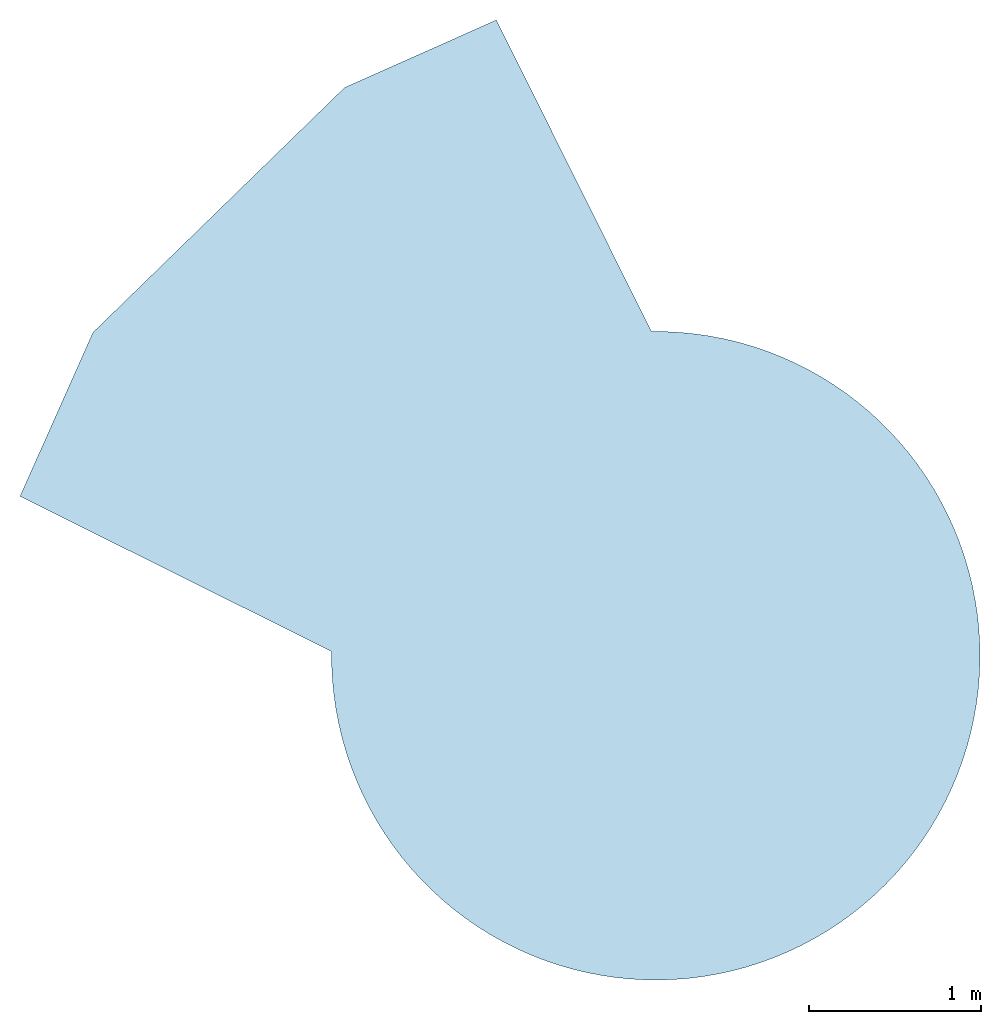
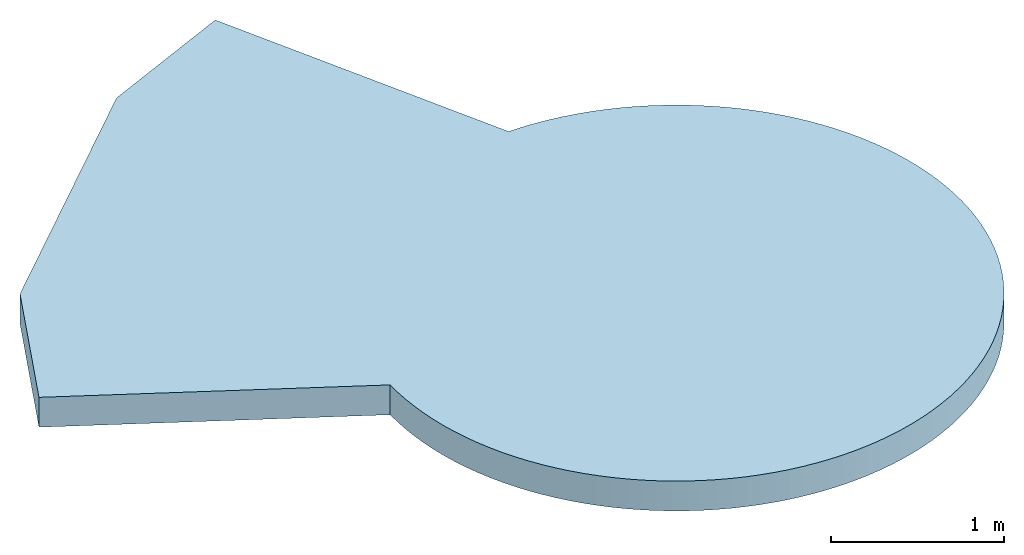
# One storey: 1 slab.
"""IFC2X3 building model written with IfcOpenShell, lengths in centimetres."""

import ifcopenshell
import ifcopenshell.guid

model = None  # the IFC model being written
_history = None  # IfcOwnerHistory: only IFC2X3 demands one
_inside = {}  # id of a spatial element -> (the spatial element, [elements in it])
_under = {}  # id of a project, library or spatial element -> (it, [spatial elements below it])
_declared = {}  # id of a project -> (the project, [libraries it declares])
_typed = {}  # id of a type object -> (the type object, [elements of that type])
_made_of = {}  # id of a material, layer set ... -> (it, [elements and type objects made of it])


def new_model(schema):
    """Start an empty IFC model of exactly this schema.

    Asked for "IFC4X3", IfcOpenShell would pick the latest addendum, in which some entities
    have other attributes; the version numbers below select the first issue.
    IFC2X3 requires an IfcOwnerHistory on every rooted entity: one is made here for all.
    """
    global model, _history
    if schema == "IFC4X3":
        model = ifcopenshell.file(schema_version=(4, 3, 0, 0))
    else:
        model = ifcopenshell.file(schema=schema)
    _inside.clear()
    _under.clear()
    _declared.clear()
    _typed.clear()
    _made_of.clear()
    _history = None
    if model.schema == "IFC2X3":
        org = make("IfcOrganization", Name="unknown")
        user = make(
            "IfcPersonAndOrganization",
            ThePerson=make("IfcPerson", FamilyName="unknown"),
            TheOrganization=org,
        )
        app = make(
            "IfcApplication",
            ApplicationDeveloper=org,
            Version="unknown",
            ApplicationFullName="unknown",
            ApplicationIdentifier="unknown",
        )
        _history = make(
            "IfcOwnerHistory",
            OwningUser=user,
            OwningApplication=app,
            ChangeAction="ADDED",
            CreationDate=0,
        )
    return model


def make(cls, **values):
    """One entity of the class cls with the attributes given. An attribute that is None is left unset."""
    return model.create_entity(
        cls, **{name: value for name, value in values.items() if value is not None}
    )


def entity(cls, *values):
    """Any entity or typed value of the class cls, its attributes in the order of the schema. None: left unset."""
    e = model.create_entity(cls)
    for i, value in enumerate(values):
        if value is not None:
            e[i] = value
    return e


def rooted(cls, **values):
    """An entity with a GlobalId (a new one), such as an element, a storey or a relation."""
    return make(cls, GlobalId=ifcopenshell.guid.new(), OwnerHistory=_history, **values)


def si_unit(unit_type, name, prefix=None):
    """IfcSIUnit, for example si_unit("LENGTHUNIT", "METRE", prefix="MILLI")."""
    return make("IfcSIUnit", UnitType=unit_type, Prefix=prefix, Name=name)


def converted_unit(unit_type, name, factor, base, dimensions=None, offset=None):
    """IfcConversionBasedUnit, such as the inch: factor (a typed value) times the base unit."""
    return make(
        "IfcConversionBasedUnit"
        if offset is None
        else "IfcConversionBasedUnitWithOffset",
        ConversionOffset=offset,
        Dimensions=None
        if dimensions is None
        else entity("IfcDimensionalExponents", *dimensions),
        UnitType=unit_type,
        Name=name,
        ConversionFactor=make(
            "IfcMeasureWithUnit", ValueComponent=factor, UnitComponent=base
        ),
    )


def derived_unit(unit_type, elements):
    """IfcDerivedUnit: a product of units, each with its exponent."""
    return make(
        "IfcDerivedUnit",
        Elements=[
            make("IfcDerivedUnitElement", Unit=unit, Exponent=power)
            for unit, power in elements
        ],
        UnitType=unit_type,
    )


def assignment(units):
    """IfcUnitAssignment: the units of a project."""
    return None if units is None else make("IfcUnitAssignment", Units=units)


def point(xyz):
    """IfcCartesianPoint."""
    return None if xyz is None else make("IfcCartesianPoint", Coordinates=xyz)


def direction(xyz):
    """IfcDirection."""
    return None if xyz is None else make("IfcDirection", DirectionRatios=xyz)


def frame(location, z_axis=None, x_axis=None):
    """IfcAxis2Placement3D, a coordinate frame: its origin and axes. An axis left out is left unset."""
    return make(
        "IfcAxis2Placement3D",
        Location=point(location),
        Axis=direction(z_axis),
        RefDirection=direction(x_axis),
    )


def frame_2d(location, x_axis=None):
    """IfcAxis2Placement2D, a coordinate frame in the plane: its origin and x axis."""
    return make(
        "IfcAxis2Placement2D", Location=point(location), RefDirection=direction(x_axis)
    )


def origin():
    """The frame at (0, 0, 0) with its axes left unset."""
    return frame((0.0, 0.0, 0.0))


def place(relative_to, where):
    """IfcLocalPlacement: puts the frame where relative to a parent placement (None: the world)."""
    return make(
        "IfcLocalPlacement", PlacementRelTo=relative_to, RelativePlacement=where
    )


def context(
    kind, dimensions, precision=None, world=None, true_north=None, identifier=None
):
    """IfcGeometricRepresentationContext, for example the 3D "Model" context."""
    return make(
        "IfcGeometricRepresentationContext",
        ContextIdentifier=identifier,
        ContextType=kind,
        CoordinateSpaceDimension=dimensions,
        Precision=precision,
        WorldCoordinateSystem=world,
        TrueNorth=true_north,
    )


def subcontext(parent, identifier, kind, view, scale=None):
    """IfcGeometricRepresentationSubContext, for example "Body" below "Model"."""
    return make(
        "IfcGeometricRepresentationSubContext",
        ContextIdentifier=identifier,
        ContextType=kind,
        ParentContext=parent,
        TargetScale=scale,
        TargetView=view,
    )


def project(units=None, contexts=None):
    """IfcProject with its units and contexts."""
    return rooted(
        "IfcProject",
        Name="project",
        RepresentationContexts=contexts,
        UnitsInContext=assignment(units),
    )


def spatial(cls, under=None, at=None, **own):
    """A site, building, storey or space (cls), placed at a placement, below another one or the project."""
    s = rooted(cls, ObjectPlacement=at, **own)
    if under is not None:
        _under.setdefault(under.id(), (under, []))[1].append(s)
    return s


def polyline(points):
    """IfcPolyline through the points."""
    return make("IfcPolyline", Points=[point(p) for p in points])


def circle_curve(where, radius):
    """IfcCircle in the frame where."""
    return make("IfcCircle", Position=where, Radius=radius)


def parameter(value):
    """IfcParameterValue: where a trimmed curve begins or ends, as a parameter of its basis curve."""
    return model.create_entity("IfcParameterValue", value)


def trimmed(basis, trim1, trim2, sense, master):
    """IfcTrimmedCurve: the piece of a basis curve between two trims."""
    return make(
        "IfcTrimmedCurve",
        BasisCurve=basis,
        Trim1=trim1,
        Trim2=trim2,
        SenseAgreement=sense,
        MasterRepresentation=master,
    )


def segment(curve, same_sense, transition):
    """IfcCompositeCurveSegment."""
    return make(
        "IfcCompositeCurveSegment",
        Transition=transition,
        SameSense=same_sense,
        ParentCurve=curve,
    )


def composite_curve(segments, self_intersect=None):
    """IfcCompositeCurve: segments joined end to end."""
    return make("IfcCompositeCurve", Segments=segments, SelfIntersect=self_intersect)


def outline(outer, holes=None, kind="AREA"):
    """IfcArbitraryClosedProfileDef: a profile drawn as a closed curve; with holes, ...WithVoids."""
    if holes is None:
        return make("IfcArbitraryClosedProfileDef", ProfileType=kind, OuterCurve=outer)
    return make(
        "IfcArbitraryProfileDefWithVoids",
        ProfileType=kind,
        OuterCurve=outer,
        InnerCurves=holes,
    )


def extrude(swept, where, along, depth):
    """IfcExtrudedAreaSolid: the profile swept, set in the frame where, extruded along a direction by depth."""
    return make(
        "IfcExtrudedAreaSolid",
        SweptArea=swept,
        Position=where,
        ExtrudedDirection=direction(along),
        Depth=depth,
    )


def shape(context_of_items, identifier, shape_type, items):
    """IfcShapeRepresentation: the items that make up one representation, for example the "Body"."""
    return make(
        "IfcShapeRepresentation",
        ContextOfItems=context_of_items,
        RepresentationIdentifier=identifier,
        RepresentationType=shape_type,
        Items=items,
    )


def material(Name=None, Category=None):
    """IfcMaterial."""
    return make("IfcMaterial", Name=Name, Category=Category)


def layer(
    of_material, thickness, ventilated=None, Name=None, Category=None, Priority=None
):
    """IfcMaterialLayer: one layer of a wall or slab, of a material (None: an air gap)."""
    return make(
        "IfcMaterialLayer",
        Material=of_material,
        LayerThickness=thickness,
        IsVentilated=ventilated,
        Name=Name,
        Category=Category,
        Priority=Priority,
    )


def layer_set(layers, Name=None):
    """IfcMaterialLayerSet."""
    return make("IfcMaterialLayerSet", MaterialLayers=layers, LayerSetName=Name)


def layer_usage(for_layer_set, set_direction, sense, offset, extent=None):
    """IfcMaterialLayerSetUsage: how a layer set lies in its element."""
    return make(
        "IfcMaterialLayerSetUsage",
        ForLayerSet=for_layer_set,
        LayerSetDirection=set_direction,
        DirectionSense=sense,
        OffsetFromReferenceLine=offset,
        ReferenceExtent=extent,
    )


def made_of(thing, what):
    """Note that an element or type object is made of a material, layer set ...; save() writes the relation."""
    if what is not None:
        _made_of.setdefault(what.id(), (what, []))[1].append(thing)
    return thing


def element(
    cls,
    number,
    at=None,
    inside=None,
    cuts=None,
    type_object=None,
    material=None,
    context=None,
    identifier="Body",
    shape_type=None,
    held_by="IfcProductDefinitionShape",
    body=None,
    shapes=None,
    **own,
):
    """One element of the class cls, such as IfcWall. Its Tag is "e" and its number.

    at: its placement. inside: the storey or other place that contains it. cuts: it is an
    opening in that element (IfcRelVoidsElement). A single representation is given by context,
    identifier, shape_type and body (its items); several are given by shapes. held_by: the class
    of the entity that holds the representations. save() writes the other relations.
    """
    e = rooted(cls, Tag="e%d" % number, ObjectPlacement=at, **own)
    if body is not None:
        shapes = [shape(context, identifier, shape_type, body)]
    if shapes is not None:
        e.Representation = make(held_by, Representations=shapes)
    if inside is not None:
        _inside.setdefault(inside.id(), (inside, []))[1].append(e)
    if cuts is not None:
        rooted(
            "IfcRelVoidsElement", RelatingBuildingElement=cuts, RelatedOpeningElement=e
        )
    if type_object is not None:
        _typed.setdefault(type_object.id(), (type_object, []))[1].append(e)
    return made_of(e, material)


def aggregate(whole, parts):
    """IfcRelAggregates: a whole, such as a stair, and the parts it consists of."""
    return rooted("IfcRelAggregates", RelatingObject=whole, RelatedObjects=parts)


def save(model, path):
    """Write the relations noted so far, then the file.

    IfcRelAggregates (storeys below a building ...), IfcRelContainedInSpatialStructure (elements
    in a storey), IfcRelDefinesByType, IfcRelAssociatesMaterial and IfcRelDeclares: one each for
    every whole, place, type object, material and project.
    """
    for whole, parts in _under.values():
        aggregate(whole, parts)
    for where, things in _inside.values():
        rooted(
            "IfcRelContainedInSpatialStructure",
            RelatedElements=things,
            RelatingStructure=where,
        )
    for kind, things in _typed.values():
        rooted("IfcRelDefinesByType", RelatedObjects=things, RelatingType=kind)
    for what, things in _made_of.values():
        rooted("IfcRelAssociatesMaterial", RelatedObjects=things, RelatingMaterial=what)
    for by, libraries in _declared.values():
        rooted("IfcRelDeclares", RelatingContext=by, RelatedDefinitions=libraries)
    model.write(path)


model = new_model("IFC2X3")

# Units and contexts
model_context = context("Model", 3, precision=0.001, world=origin(), true_north=direction((6.12303176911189e-17, 1.0)))
body_context = subcontext(model_context, "Body", "Model", "MODEL_VIEW")
ifc_project = project(units=[si_unit("LENGTHUNIT", "METRE", prefix="CENTI"), si_unit("AREAUNIT", "SQUARE_METRE"), si_unit("VOLUMEUNIT", "CUBIC_METRE"), converted_unit("PLANEANGLEUNIT", "DEGREE", entity("IfcRatioMeasure", 0.0174532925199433), si_unit("PLANEANGLEUNIT", "RADIAN"), dimensions=[0, 0, 0, 0, 0, 0, 0]), si_unit("MASSUNIT", "GRAM", prefix="KILO"), si_unit("TIMEUNIT", "SECOND"), si_unit("FREQUENCYUNIT", "HERTZ"), si_unit("THERMODYNAMICTEMPERATUREUNIT", "DEGREE_CELSIUS"), derived_unit("THERMALTRANSMITTANCEUNIT", [(si_unit("MASSUNIT", "GRAM", prefix="KILO"), 1), (si_unit("THERMODYNAMICTEMPERATUREUNIT", "KELVIN"), -1), (si_unit("TIMEUNIT", "SECOND"), -3)]), derived_unit("VOLUMETRICFLOWRATEUNIT", [(si_unit("LENGTHUNIT", "METRE"), 3), (si_unit("TIMEUNIT", "SECOND"), -1)]), si_unit("ELECTRICCURRENTUNIT", "AMPERE"), si_unit("ELECTRICVOLTAGEUNIT", "VOLT"), si_unit("POWERUNIT", "WATT"), si_unit("FORCEUNIT", "NEWTON", prefix="KILO"), si_unit("ILLUMINANCEUNIT", "LUX"), si_unit("LUMINOUSFLUXUNIT", "LUMEN"), si_unit("LUMINOUSINTENSITYUNIT", "CANDELA"), derived_unit("USERDEFINED", [(si_unit("MASSUNIT", "GRAM", prefix="KILO"), -1), (si_unit("LENGTHUNIT", "METRE"), -2), (si_unit("TIMEUNIT", "SECOND"), 3), (si_unit("LUMINOUSFLUXUNIT", "LUMEN"), 1)]), derived_unit("LINEARVELOCITYUNIT", [(si_unit("LENGTHUNIT", "METRE"), 1), (si_unit("TIMEUNIT", "SECOND"), -1)]), si_unit("PRESSUREUNIT", "PASCAL"), derived_unit("USERDEFINED", [(si_unit("LENGTHUNIT", "METRE"), -2), (si_unit("MASSUNIT", "GRAM", prefix="KILO"), 1), (si_unit("TIMEUNIT", "SECOND"), -2)])], contexts=[model_context])

# Site, building, storey
site_placement = place(None, frame((8.62739174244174, -249.285249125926, 0.0)))
site = spatial("IfcSite", under=ifc_project, at=site_placement, Name="Default", CompositionType="ELEMENT")
building_placement = place(site_placement, origin())
building = spatial("IfcBuilding", under=site, at=building_placement, CompositionType="ELEMENT")
storey_placement = place(building_placement, frame((0.0, 0.0, 715.0)))
storey = spatial("IfcBuildingStorey", under=building, at=storey_placement, Name="Toiture E2", CompositionType="ELEMENT", Elevation=715.0)

# Slab
ifc_material = material(Name="Maçonnerie - Béton")
ifc_layer = layer(ifc_material, 21.0)
ifc_layer_set = layer_set([ifc_layer], Name="Sol:Béton 160 mm avec platelage métallique 50 mm")
ifc_layer_usage = layer_usage(ifc_layer_set, "AXIS3", "POSITIVE", 0.0)
slab_placement = place(storey_placement, origin())
element("IfcSlab", 1, at=slab_placement, inside=storey, material=ifc_layer_usage, Name="Sol:Béton 160 mm avec platelage métallique 50 mm", ObjectType="Sol:Béton 160 mm avec platelage métallique 50 mm", PredefinedType="FLOOR", context=body_context, shape_type="SweptSolid", body=[
    extrude(outline(composite_curve([segment(polyline([(66.68109137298, -118.538095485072), (163.499834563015, -118.538095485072)]), True, "CONTINUOUS"), segment(polyline([(163.499834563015, -118.538095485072), (172.224694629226, 84.1036473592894)]), True, "CONTINUOUS"), segment(trimmed(circle_curve(frame_2d((97.6521452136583, 257.769806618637), x_axis=(0.394563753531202, -0.918868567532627)), 188.999999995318), [parameter(0.0)], [parameter(271.522461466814)], True, "PARAMETER"), True, "CONTINUOUS"), segment(polyline([(-73.9714014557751, 178.609474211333), (-203.083337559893, 22.1768435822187)]), True, "CONTINUOUS"), segment(polyline([(-203.083337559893, 22.1768435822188), (-125.350881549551, -47.8137741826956)]), True, "CONTINUOUS"), segment(polyline([(-125.350881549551, -47.8137741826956), (66.68109137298, -118.538095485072)]), True, "CONTINUOUS")], self_intersect=False)), frame((2849.70411823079, 949.376805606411, -72.0), z_axis=(0.0, 0.0, -1.0), x_axis=(0.913545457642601, 0.4067366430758, 0.0)), (0.0, 0.0, 1.0), 21.0),
])

save(model, "model.ifc")
